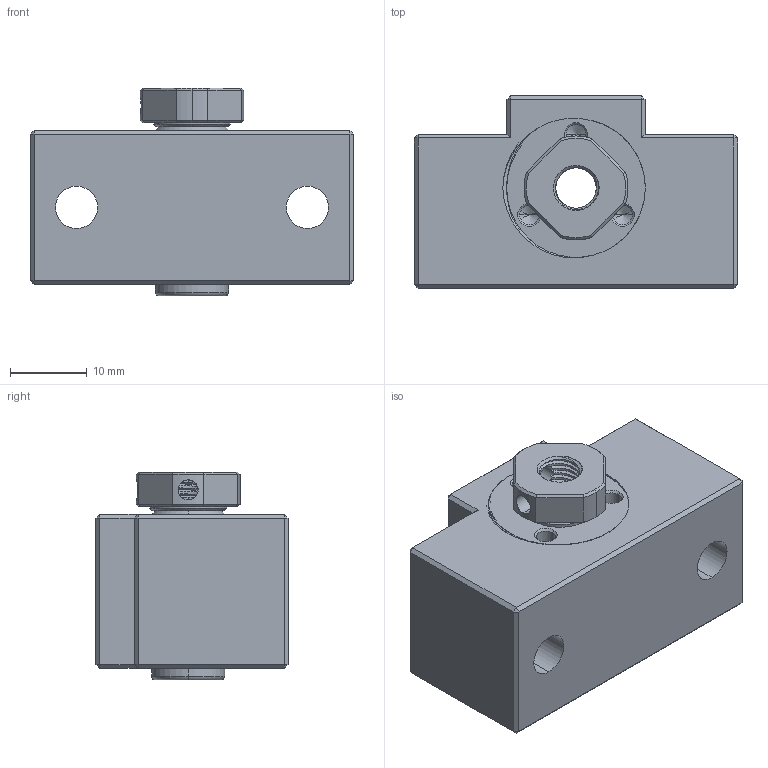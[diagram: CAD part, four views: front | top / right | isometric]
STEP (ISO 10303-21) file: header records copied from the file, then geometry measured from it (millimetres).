
FILE_DESCRIPTION (( 'STEP AP203' ), '1' );
FILE_NAME ('EK06²Õ¦X¥ó.STEP', '2010-07-02T01:15:08', ( '' ), ( '' ), 'SwSTEP 2.0', 'SolidWorks 2008', '' );
FILE_SCHEMA (( 'CONFIG_CONTROL_DESIGN' ));
Length unit declared in the file: millimetre
Products named in the file (1): EK06組合件
Bounding box: 42 x 25 x 27 mm (x, y, z)
Volume: 15454 mm3; surface area: 11807.7 mm2
Topology: 34 solids, 34 shells, 371 faces, 899 edges, 551 vertices
Faces by surface type: cylinder 108, plane 83, torus 60, cone 52, sphere 48, bspline 20
Entity records: 17523 total; most frequent: CARTESIAN_POINT 9720, DIRECTION 1664, ORIENTED_EDGE 1546, EDGE_CURVE 773, AXIS2_PLACEMENT_3D 708, VERTEX_POINT 479, EDGE_LOOP 408, ADVANCED_FACE 371
